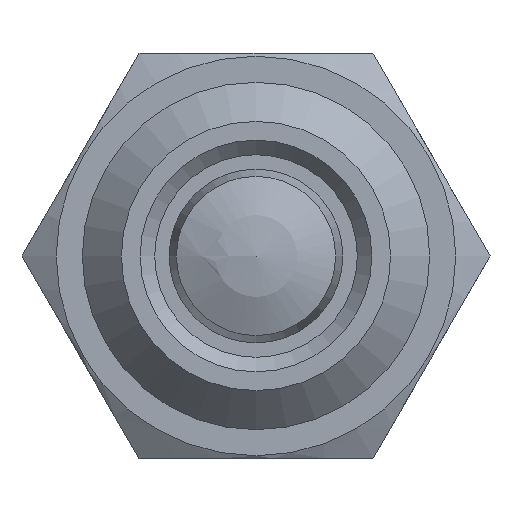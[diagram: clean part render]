
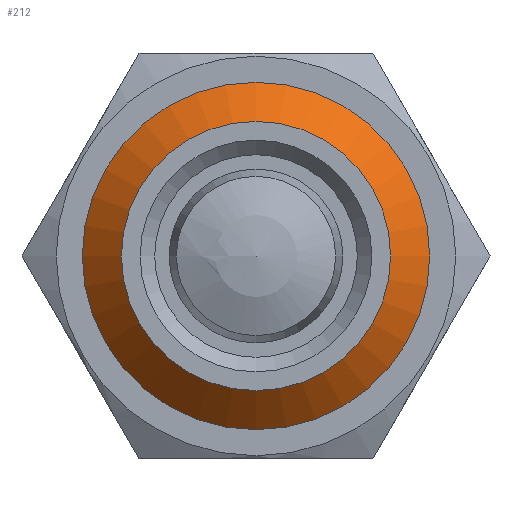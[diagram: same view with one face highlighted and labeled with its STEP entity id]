
A CAD part, front view. The second image highlights one B-rep face of the part: STEP entity #212.
In plain terms, the highlighted conical face has half-angle 45 degrees and reference radius 6 mm.
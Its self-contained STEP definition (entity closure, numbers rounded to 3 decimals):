
#212 = ADVANCED_FACE( '', ( #257, #258 ), #259, .T. );
#257 = FACE_BOUND( '', #356, .T. );
#258 = FACE_OUTER_BOUND( '', #357, .T. );
#259 = CONICAL_SURFACE( '', #358, 6., 0.785 );
#356 = EDGE_LOOP( '', ( #483 ) );
#357 = EDGE_LOOP( '', ( #484 ) );
#358 = AXIS2_PLACEMENT_3D( '', #485, #486, #487 );
#483 = ORIENTED_EDGE( '', *, *, #654, .F. );
#484 = ORIENTED_EDGE( '', *, *, #655, .T. );
#485 = CARTESIAN_POINT( '', ( 0., 1.35, 0. ) );
#486 = DIRECTION( '', ( 0., 1., 0. ) );
#487 = DIRECTION( '', ( -1., 0., 0. ) );
#654 = EDGE_CURVE( '', #714, #714, #715, .T. );
#655 = EDGE_CURVE( '', #716, #716, #717, .T. );
#714 = VERTEX_POINT( '', #908 );
#715 = CIRCLE( '', #909, 4.65 );
#716 = VERTEX_POINT( '', #910 );
#717 = CIRCLE( '', #911, 6. );
#908 = CARTESIAN_POINT( '', ( 4.65, 0., 0. ) );
#909 = AXIS2_PLACEMENT_3D( '', #992, #993, #994 );
#910 = CARTESIAN_POINT( '', ( 6., 1.35, 0. ) );
#911 = AXIS2_PLACEMENT_3D( '', #995, #996, #997 );
#992 = CARTESIAN_POINT( '', ( 0., 0., 0. ) );
#993 = DIRECTION( '', ( 0., -1., 0. ) );
#994 = DIRECTION( '', ( 1., 0., 0. ) );
#995 = CARTESIAN_POINT( '', ( 0., 1.35, 0. ) );
#996 = DIRECTION( '', ( 0., -1., 0. ) );
#997 = DIRECTION( '', ( 1., 0., 0. ) );
